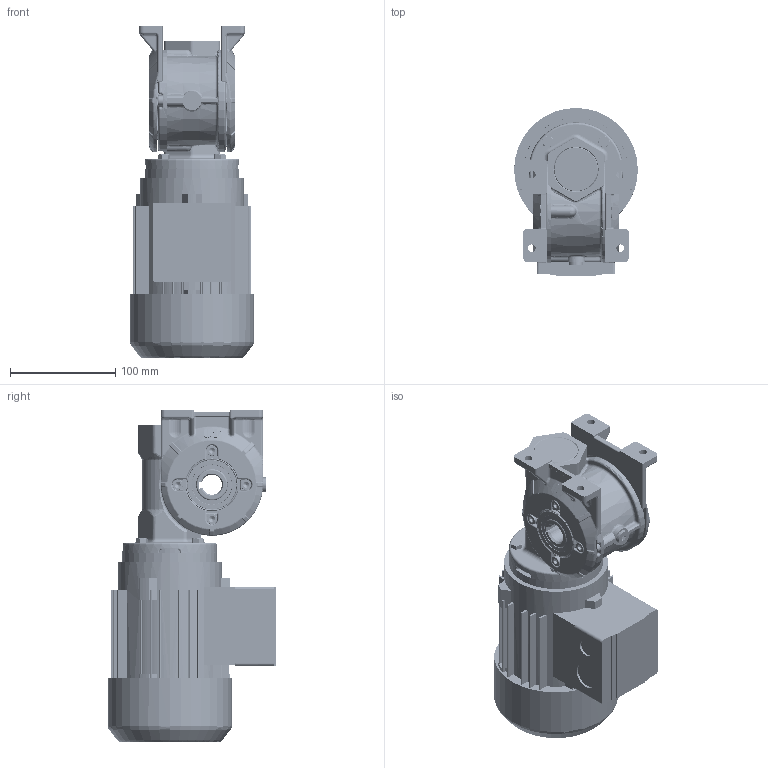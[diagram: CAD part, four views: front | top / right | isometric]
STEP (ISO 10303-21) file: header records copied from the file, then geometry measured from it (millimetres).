
FILE_DESCRIPTION (( 'STEP AP214' ), '1' );
FILE_NAME ('MRT40A-V+1LA7063.STEP', '2007-04-02T09:01:00', ( '' ), ( '' ), 'SwSTEP 2.0', 'SolidWorks 2004146', '' );
FILE_SCHEMA (( 'AUTOMOTIVE_DESIGN' ));
Length unit declared in the file: millimetre
Products named in the file (20): 1LA7060-2AA12_PRT_Výchozí; D6912_Šroub DIN 6912 - M6x12; N024630_Ložisko SKF 6004 ÈSN 024630; I4016_Šroub se šestihrannou hlavou ISO 4018 - M6x20; pøíruba FT 40_Výchozí; skøíò_Výchozí; MRT40A-V+1LA7063; Circlip for Bores normal_din_Circlip DIN 472 - 42 x 1.75; NBRvíèko42_Výchozí; ZatkaM10x1DIN908_M10x1; Šnek 40_Výchozí; n029401b_Tìsnìní AS 30x47x7 DIN 3760-NB; N024630_Ložisko SKF 6302 ÈSN 024630; Šnekové kolo 40_Výchozí; Circlip for Shafts normal_din_Circlip DIN 471 - 15 x 1; pøíruba 40-75_Výchozí; N024630_Ložisko SKF 6006 ÈSN 024630; D6912_Šroub DIN 6912 - M5x16; Adaptér patky 40_Výchozí; n029401b_Tìsnìní AS 20x35x7 DIN 3760-NB
Assembly tree (38 placements, depth 2):
  MRT40A-V+1LA7063
    n029401b_Tìsnìní AS 20x35x7 DIN 3760-NB
    D6912_Šroub DIN 6912 - M5x16  x3
    D6912_Šroub DIN 6912 - M6x12  x12
    n029401b_Tìsnìní AS 30x47x7 DIN 3760-NB  x2
    N024630_Ložisko SKF 6006 ÈSN 024630  x2
    N024630_Ložisko SKF 6004 ÈSN 024630
    Circlip for Shafts normal_din_Circlip DIN 471 - 15 x 1
    Šnekové kolo 40_Výchozí
    I4016_Šroub se šestihrannou hlavou ISO 4018 - M6x20  x4
    Šnek 40_Výchozí
    ZatkaM10x1DIN908_M10x1
    NBRvíèko42_Výchozí
    skøíò_Výchozí
    Adaptér patky 40_Výchozí  x2
    N024630_Ložisko SKF 6302 ÈSN 024630
    Circlip for Bores normal_din_Circlip DIN 472 - 42 x 1.75
    pøíruba 40-75_Výchozí
    pøíruba FT 40_Výchozí
    1LA7060-2AA12_PRT_Výchozí
Bounding box: 117.6 x 159.8 x 315.5 mm (x, y, z)
Volume: 2427851 mm3; surface area: 380698.2 mm2
Topology: 38 solids, 38 shells, 4390 faces, 10770 edges, 6203 vertices
Faces by surface type: torus 1030, cylinder 978, plane 802, bspline 728, cone 671, sphere 181
Entity records: 300098 total; most frequent: CARTESIAN_POINT 229207, DIRECTION 14921, ORIENTED_EDGE 14780, EDGE_CURVE 7390, AXIS2_PLACEMENT_3D 6558, VERTEX_POINT 4422, CIRCLE 3984, EDGE_LOOP 3222
